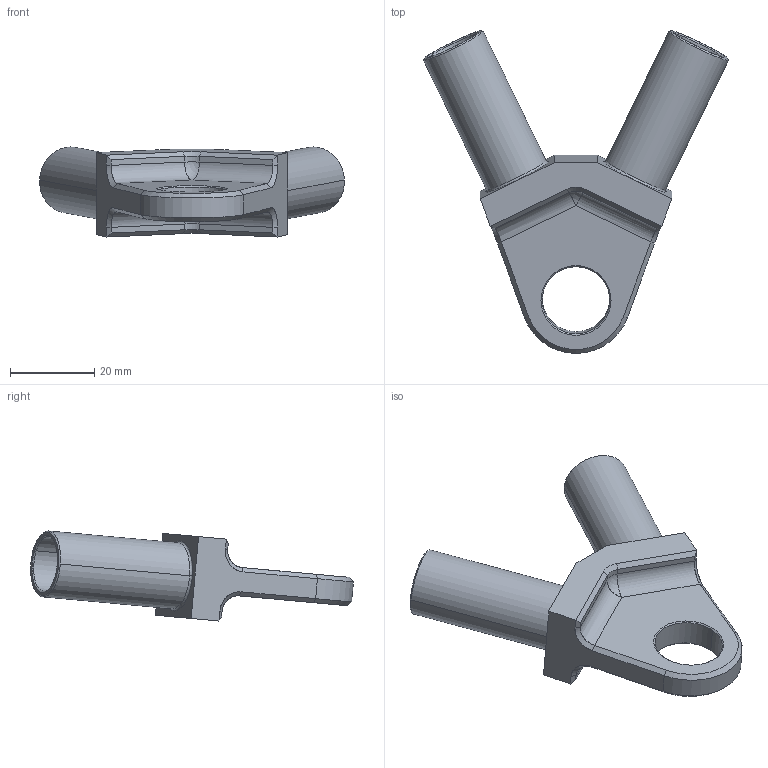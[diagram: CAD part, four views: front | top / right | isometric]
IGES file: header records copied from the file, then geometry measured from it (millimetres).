
Start section: START RECORD GO HERE.
Global section: file name: SU_04003 (Rear Lower Rod-End Support).igs; native system: IBM CATIA IGES - CATIA Version 5 Release 19 ; preprocessor: CATIA Version 5 Release 19 ; author: Le Genie; organization: THUNDERBOLT-OF-; date: 20220127.113659; units: millimetre
Bounding box: 72.3 x 76.55 x 21.35 mm (x, y, z)
Surface area: 11091.5 mm2 (no closed solid volume)
Topology: 0 solids, 0 shells, 74 faces, 342 edges, 343 vertices
Faces by surface type: revolution 43, plane 23, bspline 8
